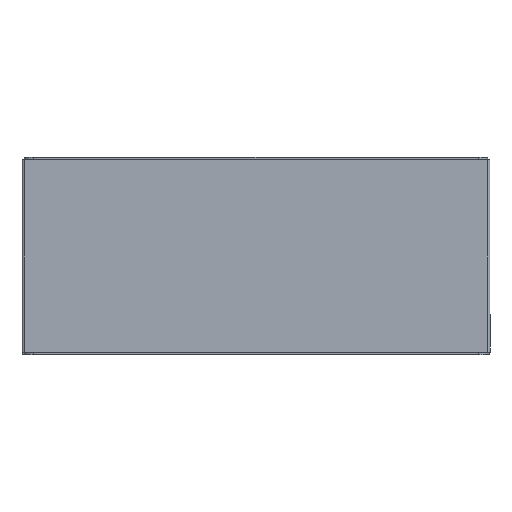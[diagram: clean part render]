
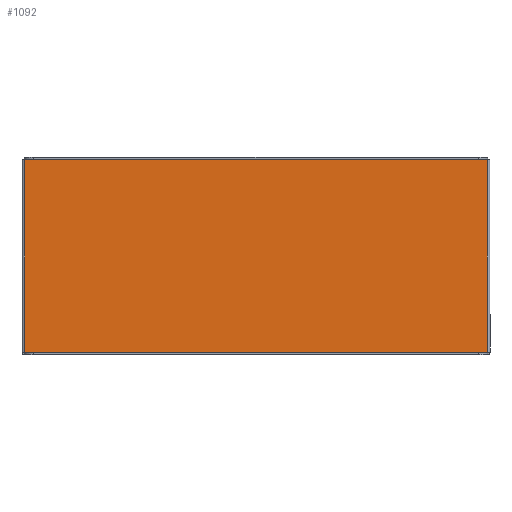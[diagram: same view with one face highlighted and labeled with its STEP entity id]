
A CAD part, front view. The second image highlights one B-rep face of the part: STEP entity #1092.
In plain terms, the highlighted planar face has unit normal (0, -1, 0).
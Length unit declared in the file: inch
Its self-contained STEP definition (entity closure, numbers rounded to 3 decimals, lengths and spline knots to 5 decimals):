
#180 = ORIENTED_EDGE ( 'NONE', *, *, #2392, .F. ) ;
#182 = VECTOR ( 'NONE', #1379, 39.37008 ) ;
#211 = LINE ( 'NONE', #552, #1151 ) ;
#274 = VERTEX_POINT ( 'NONE', #1059 ) ;
#422 = CARTESIAN_POINT ( 'NONE',  ( 12., -0.1046, -4.971 ) ) ;
#552 = CARTESIAN_POINT ( 'NONE',  ( 11.971, -0.1046, -4.971 ) ) ;
#796 = VECTOR ( 'NONE', #1503, 39.37008 ) ;
#879 = VERTEX_POINT ( 'NONE', #1250 ) ;
#1059 = CARTESIAN_POINT ( 'NONE',  ( 11.971, -0.1046, -4.971 ) ) ;
#1092 = ADVANCED_FACE ( 'NONE', ( #2384 ), #1356, .T. ) ;
#1111 = LINE ( 'NONE', #1906, #182 ) ;
#1138 = VERTEX_POINT ( 'NONE', #2178 ) ;
#1151 = VECTOR ( 'NONE', #2397, 39.37008 ) ;
#1250 = CARTESIAN_POINT ( 'NONE',  ( -11.971, -0.1046, 4.971 ) ) ;
#1356 = PLANE ( 'NONE',  #3503 ) ;
#1379 = DIRECTION ( 'NONE',  ( 1., 0., 0. ) ) ;
#1503 = DIRECTION ( 'NONE',  ( -1., 0., 0. ) ) ;
#1543 = DIRECTION ( 'NONE',  ( 0., 0., -1. ) ) ;
#1601 = VECTOR ( 'NONE', #1543, 39.37008 ) ;
#1657 = EDGE_CURVE ( 'NONE', #274, #2278, #3066, .T. ) ;
#1867 = ORIENTED_EDGE ( 'NONE', *, *, #1657, .F. ) ;
#1906 = CARTESIAN_POINT ( 'NONE',  ( -12., -0.1046, 4.971 ) ) ;
#2178 = CARTESIAN_POINT ( 'NONE',  ( 11.971, -0.1046, 4.971 ) ) ;
#2278 = VERTEX_POINT ( 'NONE', #3239 ) ;
#2341 = EDGE_LOOP ( 'NONE', ( #180, #2745, #1867, #3204 ) ) ;
#2384 = FACE_OUTER_BOUND ( 'NONE', #2341, .T. ) ;
#2392 = EDGE_CURVE ( 'NONE', #879, #1138, #1111, .T. ) ;
#2397 = DIRECTION ( 'NONE',  ( 0., 0., 1. ) ) ;
#2404 = DIRECTION ( 'NONE',  ( 0., 0., -1. ) ) ;
#2440 = CARTESIAN_POINT ( 'NONE',  ( 0., -0.1046, 0. ) ) ;
#2745 = ORIENTED_EDGE ( 'NONE', *, *, #3037, .T. ) ;
#2988 = DIRECTION ( 'NONE',  ( 0., -1., 0. ) ) ;
#3037 = EDGE_CURVE ( 'NONE', #879, #2278, #3143, .T. ) ;
#3066 = LINE ( 'NONE', #422, #796 ) ;
#3143 = LINE ( 'NONE', #3407, #1601 ) ;
#3201 = EDGE_CURVE ( 'NONE', #274, #1138, #211, .T. ) ;
#3204 = ORIENTED_EDGE ( 'NONE', *, *, #3201, .T. ) ;
#3239 = CARTESIAN_POINT ( 'NONE',  ( -11.971, -0.1046, -4.971 ) ) ;
#3407 = CARTESIAN_POINT ( 'NONE',  ( -11.971, -0.1046, 4.971 ) ) ;
#3503 = AXIS2_PLACEMENT_3D ( 'NONE', #2440, #2988, #2404 ) ;
